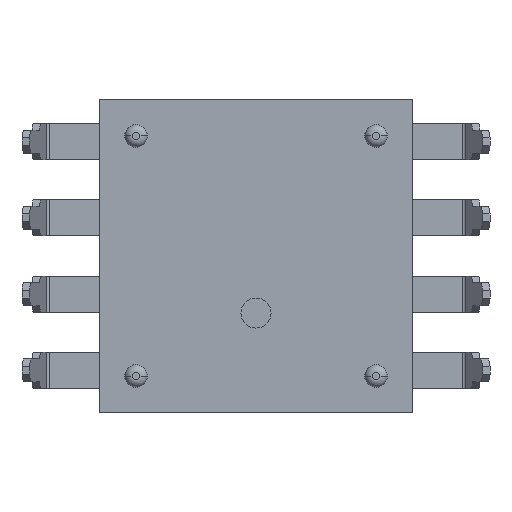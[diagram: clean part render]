
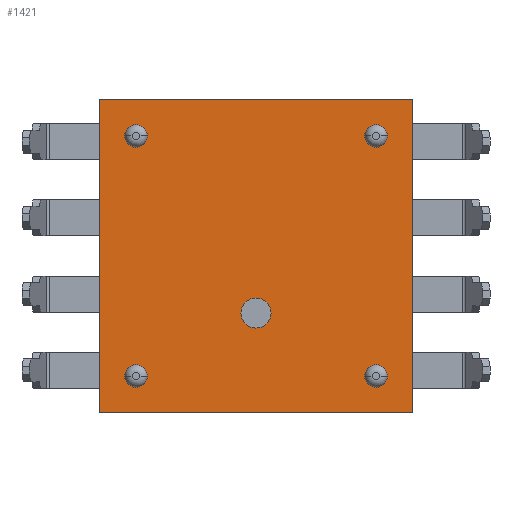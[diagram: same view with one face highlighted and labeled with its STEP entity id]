
A CAD part, front view. The second image highlights one B-rep face of the part: STEP entity #1421.
In plain terms, the highlighted planar face has unit normal (0, -1, 0).
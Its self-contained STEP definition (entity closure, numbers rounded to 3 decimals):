
#1371 = EDGE_LOOP ( 'NONE', ( #1433, #1378 ) ) ;
#1372 = ORIENTED_EDGE ( 'NONE', *, *, #1447, .F. ) ;
#1373 = VERTEX_POINT ( 'NONE', #3718 ) ;
#1374 = VERTEX_POINT ( 'NONE', #3717 ) ;
#1375 = ORIENTED_EDGE ( 'NONE', *, *, #1416, .F. ) ;
#1376 = VERTEX_POINT ( 'NONE', #3720 ) ;
#1378 = ORIENTED_EDGE ( 'NONE', *, *, #5138, .F. ) ;
#1379 = EDGE_CURVE ( 'NONE', #5074, #5071, #3719, .T. ) ;
#1380 = ORIENTED_EDGE ( 'NONE', *, *, #1379, .F. ) ;
#1413 = EDGE_CURVE ( 'NONE', #5087, #5127, #3823, .T. ) ;
#1415 = EDGE_LOOP ( 'NONE', ( #1372, #1375, #1429, #1445 ) ) ;
#1416 = EDGE_CURVE ( 'NONE', #1373, #1374, #3807, .T. ) ;
#1417 = ORIENTED_EDGE ( 'NONE', *, *, #5093, .F. ) ;
#1418 = EDGE_LOOP ( 'NONE', ( #1422, #1417 ) ) ;
#1419 = EDGE_LOOP ( 'NONE', ( #1442, #1444 ) ) ;
#1421 = ADVANCED_FACE ( 'NONE', ( #3824, #3808, #3865, #3864, #3810, #3863 ), #3809, .T. ) ;
#1422 = ORIENTED_EDGE ( 'NONE', *, *, #1413, .F. ) ;
#1423 = EDGE_CURVE ( 'NONE', #5097, #5075, #3861, .T. ) ;
#1424 = EDGE_CURVE ( 'NONE', #5086, #5083, #3862, .T. ) ;
#1425 = VERTEX_POINT ( 'NONE', #3851 ) ;
#1426 = EDGE_LOOP ( 'NONE', ( #1446, #1443 ) ) ;
#1427 = ORIENTED_EDGE ( 'NONE', *, *, #5142, .F. ) ;
#1428 = EDGE_CURVE ( 'NONE', #1425, #1373, #3804, .T. ) ;
#1429 = ORIENTED_EDGE ( 'NONE', *, *, #1428, .F. ) ;
#1430 = EDGE_CURVE ( 'NONE', #1376, #1425, #3843, .T. ) ;
#1431 = EDGE_CURVE ( 'NONE', #5144, #5091, #3839, .T. ) ;
#1433 = ORIENTED_EDGE ( 'NONE', *, *, #1431, .F. ) ;
#1435 = EDGE_LOOP ( 'NONE', ( #1380, #1427 ) ) ;
#1442 = ORIENTED_EDGE ( 'NONE', *, *, #5149, .F. ) ;
#1443 = ORIENTED_EDGE ( 'NONE', *, *, #1424, .F. ) ;
#1444 = ORIENTED_EDGE ( 'NONE', *, *, #1423, .F. ) ;
#1445 = ORIENTED_EDGE ( 'NONE', *, *, #1430, .F. ) ;
#1446 = ORIENTED_EDGE ( 'NONE', *, *, #5116, .F. ) ;
#1447 = EDGE_CURVE ( 'NONE', #1374, #1376, #3900, .T. ) ;
#3717 = CARTESIAN_POINT ( 'NONE',  ( -5.2, 0.25, -5.2 ) ) ;
#3718 = CARTESIAN_POINT ( 'NONE',  ( 5.2, 0.25, -5.2 ) ) ;
#3719 = CIRCLE ( 'NONE', #3773, 0.375 ) ;
#3720 = CARTESIAN_POINT ( 'NONE',  ( -5.2, 0.25, 5.2 ) ) ;
#3767 = DIRECTION ( 'NONE',  ( -1., 0., 0. ) ) ;
#3768 = DIRECTION ( 'NONE',  ( 0., -1., 0. ) ) ;
#3769 = CARTESIAN_POINT ( 'NONE',  ( -4., 0.25, -4. ) ) ;
#3773 = AXIS2_PLACEMENT_3D ( 'NONE', #3769, #3768, #3767 ) ;
#3803 = CARTESIAN_POINT ( 'NONE',  ( 5.2, 0.25, 5.2 ) ) ;
#3804 = LINE ( 'NONE', #3803, #3846 ) ;
#3805 = VECTOR ( 'NONE', #3867, 1000. ) ;
#3806 = CARTESIAN_POINT ( 'NONE',  ( -5.2, 0.25, -5.2 ) ) ;
#3807 = LINE ( 'NONE', #3815, #3805 ) ;
#3808 = FACE_BOUND ( 'NONE', #1419, .T. ) ;
#3809 = PLANE ( 'NONE',  #3833 ) ;
#3810 = FACE_BOUND ( 'NONE', #1371, .T. ) ;
#3811 = DIRECTION ( 'NONE',  ( 1., 0., 0. ) ) ;
#3812 = DIRECTION ( 'NONE',  ( 0., -1., 0. ) ) ;
#3813 = CARTESIAN_POINT ( 'NONE',  ( 0., 0.25, -1.9 ) ) ;
#3814 = AXIS2_PLACEMENT_3D ( 'NONE', #3813, #3812, #3811 ) ;
#3815 = CARTESIAN_POINT ( 'NONE',  ( -5.2, 0.25, -5.2 ) ) ;
#3822 = DIRECTION ( 'NONE',  ( 1., 0., 0. ) ) ;
#3823 = CIRCLE ( 'NONE', #3814, 0.5 ) ;
#3824 = FACE_BOUND ( 'NONE', #1418, .T. ) ;
#3829 = AXIS2_PLACEMENT_3D ( 'NONE', #3850, #3849, #3848 ) ;
#3833 = AXIS2_PLACEMENT_3D ( 'NONE', #3806, #3866, #3822 ) ;
#3839 = CIRCLE ( 'NONE', #3847, 0.375 ) ;
#3840 = DIRECTION ( 'NONE',  ( 1., 0., 0. ) ) ;
#3841 = VECTOR ( 'NONE', #3840, 1000. ) ;
#3842 = CARTESIAN_POINT ( 'NONE',  ( -5.2, 0.25, 5.2 ) ) ;
#3843 = LINE ( 'NONE', #3842, #3841 ) ;
#3845 = DIRECTION ( 'NONE',  ( 0., 0., -1. ) ) ;
#3846 = VECTOR ( 'NONE', #3845, 1000. ) ;
#3847 = AXIS2_PLACEMENT_3D ( 'NONE', #3859, #3858, #3896 ) ;
#3848 = DIRECTION ( 'NONE',  ( 1., 0., 0. ) ) ;
#3849 = DIRECTION ( 'NONE',  ( 0., -1., 0. ) ) ;
#3850 = CARTESIAN_POINT ( 'NONE',  ( -4., 0.25, 4. ) ) ;
#3851 = CARTESIAN_POINT ( 'NONE',  ( 5.2, 0.25, 5.2 ) ) ;
#3852 = VECTOR ( 'NONE', #3886, 1000. ) ;
#3853 = DIRECTION ( 'NONE',  ( 1., 0., 0. ) ) ;
#3854 = DIRECTION ( 'NONE',  ( 0., -1., 0. ) ) ;
#3855 = CARTESIAN_POINT ( 'NONE',  ( 4., 0.25, -4. ) ) ;
#3858 = DIRECTION ( 'NONE',  ( 0., -1., 0. ) ) ;
#3859 = CARTESIAN_POINT ( 'NONE',  ( 4., 0.25, 4. ) ) ;
#3860 = AXIS2_PLACEMENT_3D ( 'NONE', #3855, #3854, #3853 ) ;
#3861 = CIRCLE ( 'NONE', #3860, 0.375 ) ;
#3862 = CIRCLE ( 'NONE', #3829, 0.375 ) ;
#3863 = FACE_BOUND ( 'NONE', #1435, .T. ) ;
#3864 = FACE_OUTER_BOUND ( 'NONE', #1415, .T. ) ;
#3865 = FACE_BOUND ( 'NONE', #1426, .T. ) ;
#3866 = DIRECTION ( 'NONE',  ( 0., -1., 0. ) ) ;
#3867 = DIRECTION ( 'NONE',  ( -1., 0., 0. ) ) ;
#3886 = DIRECTION ( 'NONE',  ( 0., 0., 1. ) ) ;
#3896 = DIRECTION ( 'NONE',  ( -1., 0., 0. ) ) ;
#3899 = CARTESIAN_POINT ( 'NONE',  ( -5.2, 0.25, 5.2 ) ) ;
#3900 = LINE ( 'NONE', #3899, #3852 ) ;
#4215 = CARTESIAN_POINT ( 'NONE',  ( -4.375, 0.25, -4. ) ) ;
#4236 = CARTESIAN_POINT ( 'NONE',  ( 0.5, 0.25, -1.9 ) ) ;
#4238 = CARTESIAN_POINT ( 'NONE',  ( -3.625, 0.25, 4. ) ) ;
#4242 = CARTESIAN_POINT ( 'NONE',  ( 4.375, 0.25, -4. ) ) ;
#4256 = CARTESIAN_POINT ( 'NONE',  ( -3.625, 0.25, -4. ) ) ;
#4270 = DIRECTION ( 'NONE',  ( 1., 0., 0. ) ) ;
#4271 = DIRECTION ( 'NONE',  ( 0., -1., 0. ) ) ;
#4272 = CARTESIAN_POINT ( 'NONE',  ( 0., 0.25, -1.9 ) ) ;
#4273 = AXIS2_PLACEMENT_3D ( 'NONE', #4272, #4271, #4270 ) ;
#4278 = CARTESIAN_POINT ( 'NONE',  ( 4.375, 0.25, 4. ) ) ;
#4279 = CIRCLE ( 'NONE', #4273, 0.5 ) ;
#4281 = CARTESIAN_POINT ( 'NONE',  ( -4.375, 0.25, 4. ) ) ;
#4294 = CARTESIAN_POINT ( 'NONE',  ( -0.5, 0.25, -1.9 ) ) ;
#4298 = CARTESIAN_POINT ( 'NONE',  ( -4., 0.25, 4. ) ) ;
#4302 = CIRCLE ( 'NONE', #4346, 0.375 ) ;
#4321 = CARTESIAN_POINT ( 'NONE',  ( 3.625, 0.25, -4. ) ) ;
#4344 = DIRECTION ( 'NONE',  ( 1., 0., 0. ) ) ;
#4345 = DIRECTION ( 'NONE',  ( 0., -1., 0. ) ) ;
#4346 = AXIS2_PLACEMENT_3D ( 'NONE', #4298, #4345, #4344 ) ;
#4386 = CIRCLE ( 'NONE', #4388, 0.375 ) ;
#4388 = AXIS2_PLACEMENT_3D ( 'NONE', #4441, #4433, #4432 ) ;
#4389 = DIRECTION ( 'NONE',  ( -1., 0., 0. ) ) ;
#4393 = DIRECTION ( 'NONE',  ( 0., -1., 0. ) ) ;
#4394 = CARTESIAN_POINT ( 'NONE',  ( -4., 0.25, -4. ) ) ;
#4395 = AXIS2_PLACEMENT_3D ( 'NONE', #4394, #4393, #4389 ) ;
#4396 = DIRECTION ( 'NONE',  ( -1., 0., 0. ) ) ;
#4397 = DIRECTION ( 'NONE',  ( 0., -1., 0. ) ) ;
#4398 = CARTESIAN_POINT ( 'NONE',  ( 4., 0.25, 4. ) ) ;
#4399 = AXIS2_PLACEMENT_3D ( 'NONE', #4398, #4397, #4396 ) ;
#4401 = CIRCLE ( 'NONE', #4395, 0.375 ) ;
#4405 = CARTESIAN_POINT ( 'NONE',  ( 3.625, 0.25, 4. ) ) ;
#4406 = CIRCLE ( 'NONE', #4399, 0.375 ) ;
#4432 = DIRECTION ( 'NONE',  ( 1., 0., 0. ) ) ;
#4433 = DIRECTION ( 'NONE',  ( 0., -1., 0. ) ) ;
#4441 = CARTESIAN_POINT ( 'NONE',  ( 4., 0.25, -4. ) ) ;
#5071 = VERTEX_POINT ( 'NONE', #4256 ) ;
#5074 = VERTEX_POINT ( 'NONE', #4215 ) ;
#5075 = VERTEX_POINT ( 'NONE', #4242 ) ;
#5083 = VERTEX_POINT ( 'NONE', #4238 ) ;
#5086 = VERTEX_POINT ( 'NONE', #4281 ) ;
#5087 = VERTEX_POINT ( 'NONE', #4236 ) ;
#5091 = VERTEX_POINT ( 'NONE', #4278 ) ;
#5093 = EDGE_CURVE ( 'NONE', #5127, #5087, #4279, .T. ) ;
#5097 = VERTEX_POINT ( 'NONE', #4321 ) ;
#5116 = EDGE_CURVE ( 'NONE', #5083, #5086, #4302, .T. ) ;
#5127 = VERTEX_POINT ( 'NONE', #4294 ) ;
#5138 = EDGE_CURVE ( 'NONE', #5091, #5144, #4406, .T. ) ;
#5142 = EDGE_CURVE ( 'NONE', #5071, #5074, #4401, .T. ) ;
#5144 = VERTEX_POINT ( 'NONE', #4405 ) ;
#5149 = EDGE_CURVE ( 'NONE', #5075, #5097, #4386, .T. ) ;
